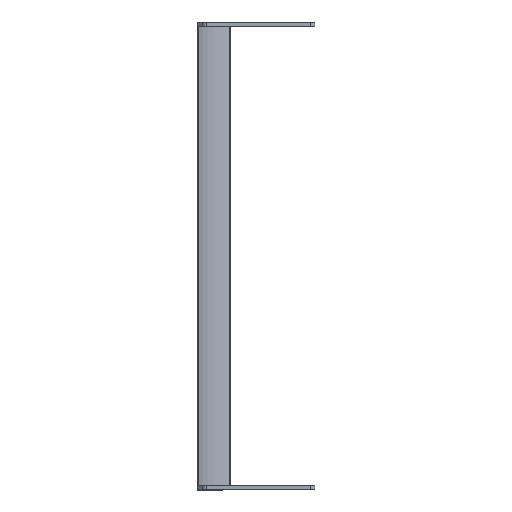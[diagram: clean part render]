
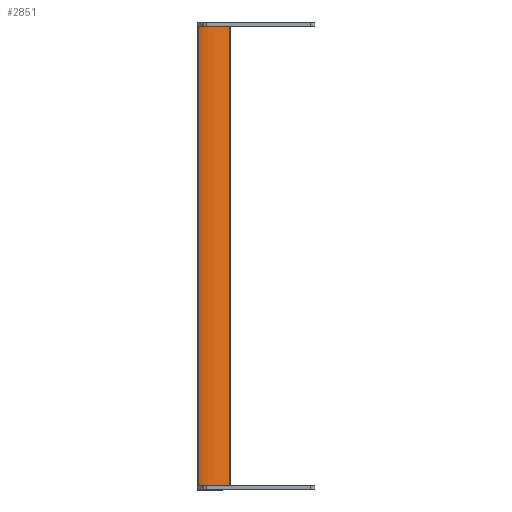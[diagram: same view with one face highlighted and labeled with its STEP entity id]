
A CAD part, left-side view. The second image highlights one B-rep face of the part: STEP entity #2851.
In plain terms, the highlighted cylindrical face has radius 40.64 mm (diameter 81.28 mm), a partial arc.
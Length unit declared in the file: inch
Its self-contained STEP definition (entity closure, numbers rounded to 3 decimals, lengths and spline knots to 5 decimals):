
#2513=CARTESIAN_POINT('',(-1.63,-1.52,-7.118));
#2514=DIRECTION('',(0.,0.,1.));
#2515=DIRECTION('',(0.946,0.325,0.));
#2516=AXIS2_PLACEMENT_3D('',#2513,#2514,#2515);
#2564=DIRECTION('',(0.,0.,1.));
#2565=VECTOR('',#2564,14.236);
#2566=CARTESIAN_POINT('',(-0.98126,-0.05742,-7.118));
#2567=LINE('',#2566,#2565);
#2583=CARTESIAN_POINT('',(-1.63,-1.52,7.118));
#2584=DIRECTION('',(0.,0.,-1.));
#2585=DIRECTION('',(0.405,0.914,0.));
#2586=AXIS2_PLACEMENT_3D('',#2583,#2584,#2585);
#2629=DIRECTION('',(0.,0.,1.));
#2630=VECTOR('',#2629,14.236);
#2631=CARTESIAN_POINT('',(-0.11675,-1.00032,-7.118));
#2632=LINE('',#2631,#2630);
#2659=CARTESIAN_POINT('',(-0.11675,-1.00032,-7.118));
#2660=CARTESIAN_POINT('',(-0.11675,-1.00032,7.118));
#2661=VERTEX_POINT('',#2659);
#2662=VERTEX_POINT('',#2660);
#2669=CARTESIAN_POINT('',(-0.98126,-0.05742,-7.118));
#2671=VERTEX_POINT('',#2669);
#2678=CARTESIAN_POINT('',(-0.98126,-0.05742,7.118));
#2680=VERTEX_POINT('',#2678);
#2840=CARTESIAN_POINT('',(-1.63,-1.52,7.118));
#2841=DIRECTION('',(0.,0.,-1.));
#2842=DIRECTION('',(-1.,0.,0.));
#2843=AXIS2_PLACEMENT_3D('',#2840,#2841,#2842);
#2844=CYLINDRICAL_SURFACE('',#2843,1.6);
#2845=ORIENTED_EDGE('',*,*,#2718,.T.);
#2846=ORIENTED_EDGE('',*,*,#2764,.T.);
#2847=ORIENTED_EDGE('',*,*,#2784,.T.);
#2848=ORIENTED_EDGE('',*,*,#2700,.F.);
#2849=EDGE_LOOP('',(#2845,#2846,#2847,#2848));
#2850=FACE_OUTER_BOUND('',#2849,.F.);
#2517=CIRCLE('',#2516,1.6);
#2587=CIRCLE('',#2586,1.6);
#2700=EDGE_CURVE('',#2661,#2662,#2632,.T.);
#2718=EDGE_CURVE('',#2661,#2671,#2517,.T.);
#2764=EDGE_CURVE('',#2671,#2680,#2567,.T.);
#2784=EDGE_CURVE('',#2680,#2662,#2587,.T.);
#2851=ADVANCED_FACE('',(#2850),#2844,.F.);
